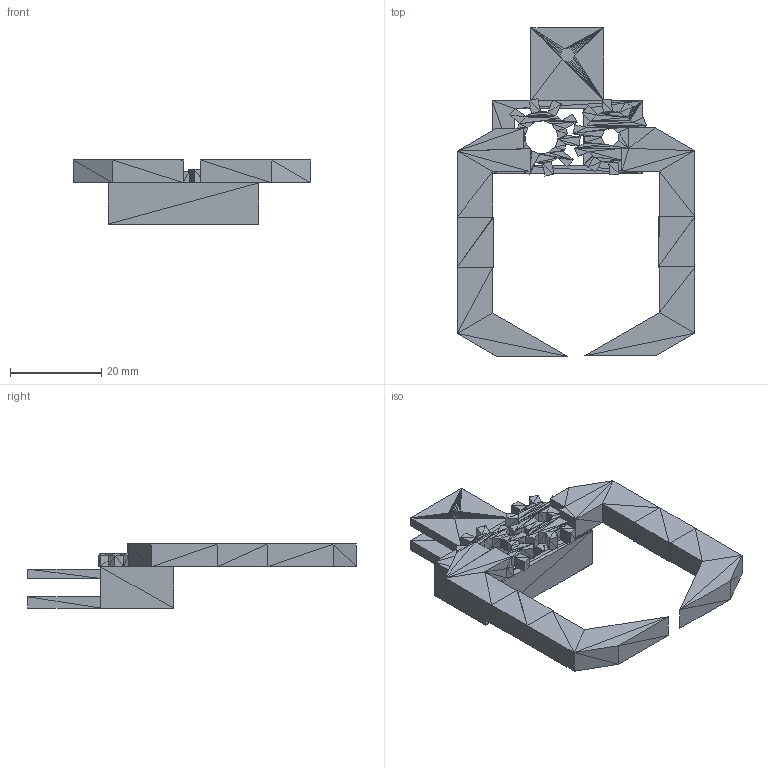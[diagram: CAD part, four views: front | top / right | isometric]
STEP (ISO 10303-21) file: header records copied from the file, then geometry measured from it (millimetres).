
FILE_DESCRIPTION(('FreeCAD Model'),'2;1');
FILE_NAME('C:/Users/ldb/Documents/pinza.step','2018-03-28T10:25:43',( 'Author'),(''),'Open CASCADE STEP processor 6.8','FreeCAD','Unknown' );
FILE_SCHEMA(('AUTOMOTIVE_DESIGN_CC2 { 1 2 10303 214 -1 1 5 4 }'));
Length unit declared in the file: millimetre
Products named in the file (1): pinza_assieme001
Bounding box: 52.22 x 72.13 x 14.06 mm (x, y, z)
Surface area: 7726.3 mm2 (no closed solid volume)
Topology: 0 solids, 3 shells, 876 faces, 1318 edges, 438 vertices
Faces by surface type: plane 876
Entity records: 32977 total; most frequent: CARTESIAN_POINT 6587, DIRECTION 4390, ORIENTED_EDGE 2636, LINE 2636, VECTOR 2636, PCURVE 2636, DEFINITIONAL_REPRESENTATION 2636, EDGE_CURVE 1318
